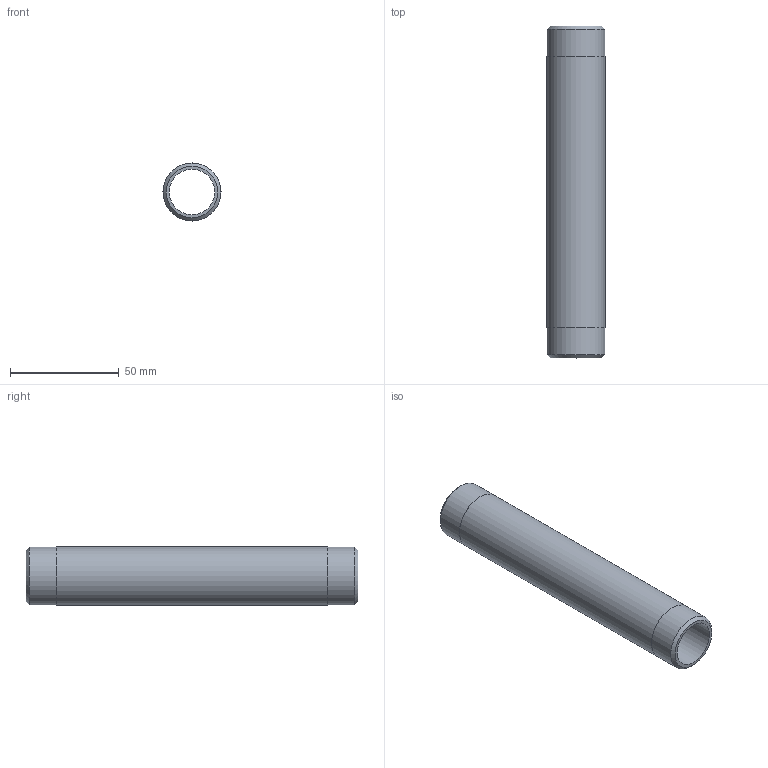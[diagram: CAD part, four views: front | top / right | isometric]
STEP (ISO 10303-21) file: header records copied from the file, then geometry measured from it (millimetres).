
FILE_DESCRIPTION(/* description */ (''),/* implementation_level */ '2;1');
FILE_NAME(/* name */ 'C:/Users/drich/Desktop/SSPN34-6 v1.step',/* time_stamp */ '2020-01-04T13:43:27-06:00',/* author */ (''),/* organization */ (''),/* preprocessor_version */ 'ST-DEVELOPER v18',/* originating_system */ 'Autodesk Translation Framework v8.12.0.6',/* authorisation */ '');
FILE_SCHEMA (('AUTOMOTIVE_DESIGN { 1 0 10303 214 3 1 1 }'));
Length unit declared in the file: inch
Products named in the file (1): SSPN34-6
Bounding box: 26.67 x 152.4 x 26.67 mm (x, y, z)
Volume: 32489.1 mm3; surface area: 23072.5 mm2
Topology: 1 solids, 1 shells, 10 faces, 24 edges, 18 vertices
Faces by surface type: cylinder 4, plane 4, cone 2
Full cylindrical faces by diameter (mm): 20.93 x1, 26.619 x2, 26.67 x1
Entity records: 353 total; most frequent: DIRECTION 64, CARTESIAN_POINT 53, ORIENTED_EDGE 48, AXIS2_PLACEMENT_3D 29, EDGE_CURVE 24, CIRCLE 18, VERTEX_POINT 18, EDGE_LOOP 14
